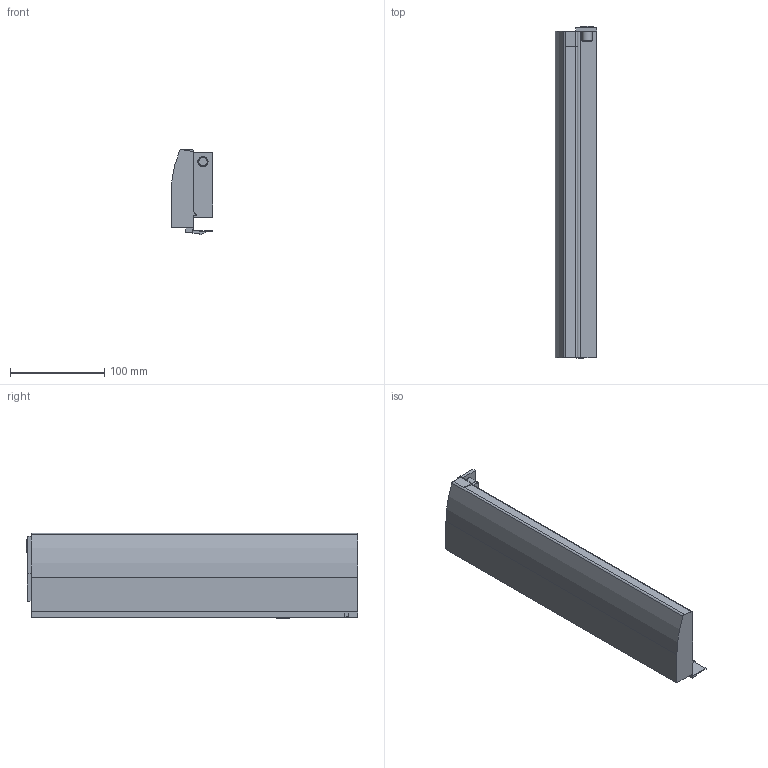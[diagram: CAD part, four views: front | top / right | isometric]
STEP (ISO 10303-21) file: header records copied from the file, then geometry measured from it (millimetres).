
FILE_DESCRIPTION (( 'STEP AP214' ), '1' );
FILE_NAME ('_IMOS_NOVA-Pro_Dekor-H90_DL_NL350_LI.step', '2010-07-06T09:14:33', ( 'grass' ), ( '' ), 'SwSTEP 2.0', 'SolidWorks 2009', '' );
FILE_SCHEMA (( 'AUTOMOTIVE_DESIGN' ));
Length unit declared in the file: millimetre
Products named in the file (1): _IMOS_NOVA-Pro_Dekor-H90_DL_NL350_LI
Bounding box: 44.3 x 352.7 x 90.49 mm (x, y, z)
Volume: 387065.3 mm3; surface area: 122305.7 mm2
Topology: 1 solids, 1 shells, 69 faces, 182 edges, 120 vertices
Faces by surface type: plane 47, cylinder 17, cone 4, bspline 1
Entity records: 2168 total; most frequent: CARTESIAN_POINT 393, ORIENTED_EDGE 364, DIRECTION 357, EDGE_CURVE 182, VECTOR 141, LINE 141, VERTEX_POINT 120, AXIS2_PLACEMENT_3D 108
